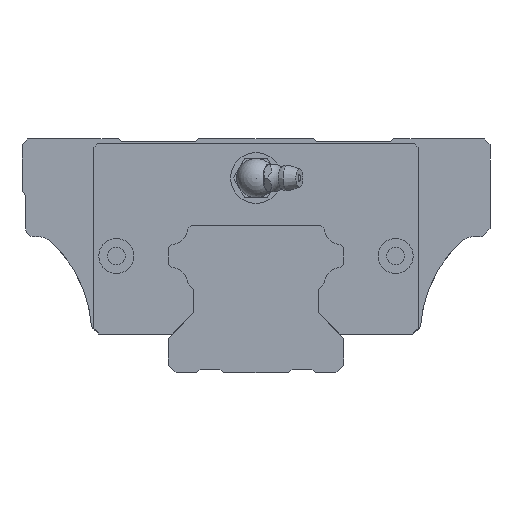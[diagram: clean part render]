
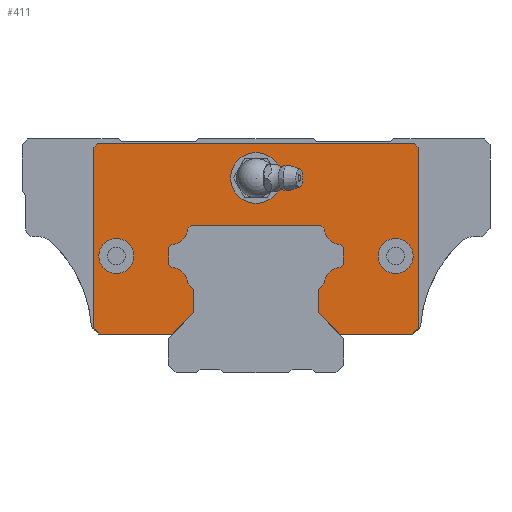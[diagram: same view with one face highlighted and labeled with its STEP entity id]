
A CAD part, front view. The second image highlights one B-rep face of the part: STEP entity #411.
In plain terms, the highlighted planar face has unit normal (0, -1, 0).
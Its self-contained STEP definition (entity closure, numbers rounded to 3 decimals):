
#128=FACE_BOUND('',#829,.T.);
#129=FACE_BOUND('',#830,.T.);
#130=FACE_BOUND('',#831,.T.);
#248=PLANE('',#3667);
#411=ADVANCED_FACE('',(#128,#129,#130,#647),#248,.F.);
#647=FACE_OUTER_BOUND('',#832,.T.);
#829=EDGE_LOOP('',(#2098));
#830=EDGE_LOOP('',(#2099));
#831=EDGE_LOOP('',(#2100));
#832=EDGE_LOOP('',(#2101,#2102,#2103,#2104,#2105,#2106,#2107,#2108,#2109,
#2110,#2111,#2112,#2113,#2114,#2115,#2116,#2117,#2118,#2119,#2120,#2121,
#2122,#2123,#2124,#2125,#2126,#2127,#2128));
#1044=LINE('',#5040,#1370);
#1049=LINE('',#5050,#1375);
#1052=LINE('',#5056,#1378);
#1055=LINE('',#5062,#1381);
#1059=LINE('',#5074,#1385);
#1062=LINE('',#5080,#1388);
#1065=LINE('',#5086,#1391);
#1069=LINE('',#5098,#1395);
#1072=LINE('',#5104,#1398);
#1075=LINE('',#5110,#1401);
#1079=LINE('',#5122,#1405);
#1082=LINE('',#5128,#1408);
#1085=LINE('',#5134,#1411);
#1089=LINE('',#5146,#1415);
#1092=LINE('',#5152,#1418);
#1095=LINE('',#5158,#1421);
#1098=LINE('',#5164,#1424);
#1157=LINE('',#5310,#1483);
#1159=LINE('',#5314,#1485);
#1161=LINE('',#5318,#1487);
#1163=LINE('',#5322,#1489);
#1165=LINE('',#5326,#1491);
#1166=LINE('',#5328,#1492);
#1168=LINE('',#5332,#1494);
#1370=VECTOR('',#4010,1.);
#1375=VECTOR('',#4017,1.);
#1378=VECTOR('',#4022,1.);
#1381=VECTOR('',#4027,1.);
#1385=VECTOR('',#4039,1.);
#1388=VECTOR('',#4044,1.);
#1391=VECTOR('',#4049,1.);
#1395=VECTOR('',#4061,1.);
#1398=VECTOR('',#4066,1.);
#1401=VECTOR('',#4071,1.);
#1405=VECTOR('',#4083,1.);
#1408=VECTOR('',#4088,1.);
#1411=VECTOR('',#4093,1.);
#1415=VECTOR('',#4105,1.);
#1418=VECTOR('',#4110,1.);
#1421=VECTOR('',#4115,1.);
#1424=VECTOR('',#4120,1.);
#1483=VECTOR('',#4263,1.);
#1485=VECTOR('',#4267,1.);
#1487=VECTOR('',#4271,1.);
#1489=VECTOR('',#4275,1.);
#1491=VECTOR('',#4279,1.);
#1492=VECTOR('',#4282,1.);
#1494=VECTOR('',#4286,1.);
#2098=ORIENTED_EDGE('',*,*,#3190,.F.);
#2099=ORIENTED_EDGE('',*,*,#3191,.F.);
#2100=ORIENTED_EDGE('',*,*,#3192,.F.);
#2101=ORIENTED_EDGE('',*,*,#3178,.F.);
#2102=ORIENTED_EDGE('',*,*,#3189,.T.);
#2103=ORIENTED_EDGE('',*,*,#3187,.T.);
#2104=ORIENTED_EDGE('',*,*,#3107,.T.);
#2105=ORIENTED_EDGE('',*,*,#3104,.F.);
#2106=ORIENTED_EDGE('',*,*,#3101,.F.);
#2107=ORIENTED_EDGE('',*,*,#3098,.T.);
#2108=ORIENTED_EDGE('',*,*,#3095,.T.);
#2109=ORIENTED_EDGE('',*,*,#3092,.T.);
#2110=ORIENTED_EDGE('',*,*,#3089,.F.);
#2111=ORIENTED_EDGE('',*,*,#3086,.F.);
#2112=ORIENTED_EDGE('',*,*,#3083,.T.);
#2113=ORIENTED_EDGE('',*,*,#3080,.F.);
#2114=ORIENTED_EDGE('',*,*,#3077,.T.);
#2115=ORIENTED_EDGE('',*,*,#3074,.T.);
#2116=ORIENTED_EDGE('',*,*,#3071,.T.);
#2117=ORIENTED_EDGE('',*,*,#3068,.T.);
#2118=ORIENTED_EDGE('',*,*,#3065,.T.);
#2119=ORIENTED_EDGE('',*,*,#3062,.F.);
#2120=ORIENTED_EDGE('',*,*,#3059,.T.);
#2121=ORIENTED_EDGE('',*,*,#3056,.F.);
#2122=ORIENTED_EDGE('',*,*,#3053,.T.);
#2123=ORIENTED_EDGE('',*,*,#3050,.T.);
#2124=ORIENTED_EDGE('',*,*,#3045,.F.);
#2125=ORIENTED_EDGE('',*,*,#3186,.T.);
#2126=ORIENTED_EDGE('',*,*,#3184,.F.);
#2127=ORIENTED_EDGE('',*,*,#3182,.F.);
#2128=ORIENTED_EDGE('',*,*,#3180,.F.);
#2691=VERTEX_POINT('',#5039);
#2692=VERTEX_POINT('',#5041);
#2696=VERTEX_POINT('',#5051);
#2698=VERTEX_POINT('',#5057);
#2700=VERTEX_POINT('',#5063);
#2702=VERTEX_POINT('',#5069);
#2704=VERTEX_POINT('',#5075);
#2706=VERTEX_POINT('',#5081);
#2708=VERTEX_POINT('',#5087);
#2710=VERTEX_POINT('',#5093);
#2712=VERTEX_POINT('',#5099);
#2714=VERTEX_POINT('',#5105);
#2716=VERTEX_POINT('',#5111);
#2718=VERTEX_POINT('',#5117);
#2720=VERTEX_POINT('',#5123);
#2722=VERTEX_POINT('',#5129);
#2724=VERTEX_POINT('',#5135);
#2726=VERTEX_POINT('',#5141);
#2728=VERTEX_POINT('',#5147);
#2730=VERTEX_POINT('',#5153);
#2732=VERTEX_POINT('',#5159);
#2734=VERTEX_POINT('',#5165);
#2778=VERTEX_POINT('',#5309);
#2779=VERTEX_POINT('',#5311);
#2780=VERTEX_POINT('',#5315);
#2781=VERTEX_POINT('',#5319);
#2782=VERTEX_POINT('',#5323);
#2783=VERTEX_POINT('',#5329);
#2784=VERTEX_POINT('',#5335);
#2785=VERTEX_POINT('',#5337);
#2786=VERTEX_POINT('',#5339);
#3045=EDGE_CURVE('',#2691,#2692,#1044,.T.);
#3050=EDGE_CURVE('',#2696,#2692,#1049,.T.);
#3053=EDGE_CURVE('',#2698,#2696,#1052,.T.);
#3056=EDGE_CURVE('',#2698,#2700,#1055,.T.);
#3059=EDGE_CURVE('',#2702,#2700,#3448,.T.);
#3062=EDGE_CURVE('',#2702,#2704,#1059,.T.);
#3065=EDGE_CURVE('',#2706,#2704,#1062,.T.);
#3068=EDGE_CURVE('',#2708,#2706,#1065,.T.);
#3071=EDGE_CURVE('',#2710,#2708,#3450,.T.);
#3074=EDGE_CURVE('',#2712,#2710,#1069,.T.);
#3077=EDGE_CURVE('',#2714,#2712,#1072,.T.);
#3080=EDGE_CURVE('',#2714,#2716,#1075,.T.);
#3083=EDGE_CURVE('',#2718,#2716,#3452,.T.);
#3086=EDGE_CURVE('',#2718,#2720,#1079,.T.);
#3089=EDGE_CURVE('',#2720,#2722,#1082,.T.);
#3092=EDGE_CURVE('',#2724,#2722,#1085,.T.);
#3095=EDGE_CURVE('',#2726,#2724,#3454,.T.);
#3098=EDGE_CURVE('',#2728,#2726,#1089,.T.);
#3101=EDGE_CURVE('',#2728,#2730,#1092,.T.);
#3104=EDGE_CURVE('',#2730,#2732,#1095,.T.);
#3107=EDGE_CURVE('',#2734,#2732,#1098,.T.);
#3178=EDGE_CURVE('',#2778,#2779,#1157,.T.);
#3180=EDGE_CURVE('',#2779,#2780,#1159,.T.);
#3182=EDGE_CURVE('',#2780,#2781,#1161,.T.);
#3184=EDGE_CURVE('',#2781,#2782,#1163,.T.);
#3186=EDGE_CURVE('',#2691,#2782,#1165,.T.);
#3187=EDGE_CURVE('',#2783,#2734,#1166,.T.);
#3189=EDGE_CURVE('',#2778,#2783,#1168,.T.);
#3190=EDGE_CURVE('',#2784,#2784,#3468,.T.);
#3191=EDGE_CURVE('',#2785,#2785,#3469,.T.);
#3192=EDGE_CURVE('',#2786,#2786,#3470,.T.);
#3448=CIRCLE('',#3591,4.35);
#3450=CIRCLE('',#3597,4.35);
#3452=CIRCLE('',#3603,4.35);
#3454=CIRCLE('',#3609,4.35);
#3468=CIRCLE('',#3664,6.5);
#3469=CIRCLE('',#3665,4.5);
#3470=CIRCLE('',#3666,4.5);
#3591=AXIS2_PLACEMENT_3D('',#5068,#4032,#4033);
#3597=AXIS2_PLACEMENT_3D('',#5092,#4054,#4055);
#3603=AXIS2_PLACEMENT_3D('',#5116,#4076,#4077);
#3609=AXIS2_PLACEMENT_3D('',#5140,#4098,#4099);
#3664=AXIS2_PLACEMENT_3D('',#5334,#4289,#4290);
#3665=AXIS2_PLACEMENT_3D('',#5336,#4291,#4292);
#3666=AXIS2_PLACEMENT_3D('',#5338,#4293,#4294);
#3667=AXIS2_PLACEMENT_3D('',#5340,#4295,#4296);
#4010=DIRECTION('',(-1.,0.,0.));
#4017=DIRECTION('',(0.707,0.,-0.707));
#4022=DIRECTION('',(0.,0.,-1.));
#4027=DIRECTION('',(0.707,0.,0.707));
#4032=DIRECTION('',(0.,-1.,0.));
#4033=DIRECTION('',(1.,0.,0.));
#4039=DIRECTION('',(0.707,0.,0.707));
#4044=DIRECTION('',(0.,0.,-1.));
#4049=DIRECTION('',(0.707,0.,-0.707));
#4054=DIRECTION('',(0.,-1.,0.));
#4055=DIRECTION('',(1.,0.,0.));
#4061=DIRECTION('',(0.707,0.,-0.707));
#4066=DIRECTION('',(1.,0.,0.));
#4071=DIRECTION('',(-0.707,0.,-0.707));
#4076=DIRECTION('',(0.,-1.,0.));
#4077=DIRECTION('',(1.,0.,0.));
#4083=DIRECTION('',(-0.707,0.,-0.707));
#4088=DIRECTION('',(0.,0.,-1.));
#4093=DIRECTION('',(-0.707,0.,0.707));
#4098=DIRECTION('',(0.,-1.,0.));
#4099=DIRECTION('',(1.,0.,0.));
#4105=DIRECTION('',(-0.707,0.,0.707));
#4110=DIRECTION('',(0.,0.,-1.));
#4115=DIRECTION('',(-0.707,0.,-0.707));
#4120=DIRECTION('',(1.,0.,0.));
#4263=DIRECTION('',(0.707,0.,0.707));
#4267=DIRECTION('',(1.,0.,0.));
#4271=DIRECTION('',(0.707,0.,-0.707));
#4275=DIRECTION('',(0.,0.,-1.));
#4279=DIRECTION('',(0.707,0.,0.707));
#4282=DIRECTION('',(0.707,0.,-0.707));
#4286=DIRECTION('',(0.,0.,-1.));
#4289=DIRECTION('',(0.,-1.,0.));
#4290=DIRECTION('',(0.,0.,-1.));
#4291=DIRECTION('',(0.,-1.,0.));
#4292=DIRECTION('',(0.,0.,-1.));
#4293=DIRECTION('',(0.,-1.,0.));
#4294=DIRECTION('',(0.,0.,-1.));
#4295=DIRECTION('',(0.,1.,0.));
#4296=DIRECTION('',(0.,0.,-1.));
#5039=CARTESIAN_POINT('',(40.146,-83.75,10.));
#5040=CARTESIAN_POINT('',(40.146,-83.75,10.));
#5041=CARTESIAN_POINT('',(21.359,-83.75,10.));
#5050=CARTESIAN_POINT('',(15.9,-83.75,15.459));
#5051=CARTESIAN_POINT('',(15.9,-83.75,15.459));
#5056=CARTESIAN_POINT('',(15.9,-83.75,21.441));
#5057=CARTESIAN_POINT('',(15.9,-83.75,21.441));
#5062=CARTESIAN_POINT('',(15.9,-83.75,21.441));
#5063=CARTESIAN_POINT('',(17.575,-83.75,23.116));
#5068=CARTESIAN_POINT('',(21.912,-83.75,22.788));
#5069=CARTESIAN_POINT('',(21.584,-83.75,27.125));
#5074=CARTESIAN_POINT('',(21.584,-83.75,27.125));
#5075=CARTESIAN_POINT('',(22.4,-83.75,27.941));
#5080=CARTESIAN_POINT('',(22.4,-83.75,32.059));
#5081=CARTESIAN_POINT('',(22.4,-83.75,32.059));
#5086=CARTESIAN_POINT('',(21.584,-83.75,32.875));
#5087=CARTESIAN_POINT('',(21.584,-83.75,32.875));
#5092=CARTESIAN_POINT('',(21.912,-83.75,37.212));
#5093=CARTESIAN_POINT('',(17.575,-83.75,36.884));
#5098=CARTESIAN_POINT('',(16.559,-83.75,37.9));
#5099=CARTESIAN_POINT('',(16.559,-83.75,37.9));
#5104=CARTESIAN_POINT('',(-16.559,-83.75,37.9));
#5105=CARTESIAN_POINT('',(-16.559,-83.75,37.9));
#5110=CARTESIAN_POINT('',(-16.559,-83.75,37.9));
#5111=CARTESIAN_POINT('',(-17.575,-83.75,36.884));
#5116=CARTESIAN_POINT('',(-21.912,-83.75,37.212));
#5117=CARTESIAN_POINT('',(-21.584,-83.75,32.875));
#5122=CARTESIAN_POINT('',(-21.584,-83.75,32.875));
#5123=CARTESIAN_POINT('',(-22.4,-83.75,32.059));
#5128=CARTESIAN_POINT('',(-22.4,-83.75,32.059));
#5129=CARTESIAN_POINT('',(-22.4,-83.75,27.941));
#5134=CARTESIAN_POINT('',(-21.584,-83.75,27.125));
#5135=CARTESIAN_POINT('',(-21.584,-83.75,27.125));
#5140=CARTESIAN_POINT('',(-21.912,-83.75,22.788));
#5141=CARTESIAN_POINT('',(-17.575,-83.75,23.116));
#5146=CARTESIAN_POINT('',(-15.9,-83.75,21.441));
#5147=CARTESIAN_POINT('',(-15.9,-83.75,21.441));
#5152=CARTESIAN_POINT('',(-15.9,-83.75,21.441));
#5153=CARTESIAN_POINT('',(-15.9,-83.75,15.459));
#5158=CARTESIAN_POINT('',(-15.9,-83.75,15.459));
#5159=CARTESIAN_POINT('',(-21.359,-83.75,10.));
#5164=CARTESIAN_POINT('',(-40.146,-83.75,10.));
#5165=CARTESIAN_POINT('',(-40.146,-83.75,10.));
#5309=CARTESIAN_POINT('',(-41.55,-83.75,57.896));
#5310=CARTESIAN_POINT('',(-41.55,-83.75,57.896));
#5311=CARTESIAN_POINT('',(-40.696,-83.75,58.75));
#5314=CARTESIAN_POINT('',(-40.696,-83.75,58.75));
#5315=CARTESIAN_POINT('',(40.696,-83.75,58.75));
#5318=CARTESIAN_POINT('',(40.696,-83.75,58.75));
#5319=CARTESIAN_POINT('',(41.55,-83.75,57.896));
#5322=CARTESIAN_POINT('',(41.55,-83.75,57.896));
#5323=CARTESIAN_POINT('',(41.55,-83.75,11.404));
#5326=CARTESIAN_POINT('',(40.146,-83.75,10.));
#5328=CARTESIAN_POINT('',(-41.55,-83.75,11.404));
#5329=CARTESIAN_POINT('',(-41.55,-83.75,11.404));
#5332=CARTESIAN_POINT('',(-41.55,-83.75,57.896));
#5334=CARTESIAN_POINT('',(0.,-83.75,50.));
#5335=CARTESIAN_POINT('',(0.,-83.75,43.5));
#5336=CARTESIAN_POINT('',(35.8,-83.75,30.));
#5337=CARTESIAN_POINT('',(35.8,-83.75,25.5));
#5338=CARTESIAN_POINT('',(-35.8,-83.75,30.));
#5339=CARTESIAN_POINT('',(-35.8,-83.75,25.5));
#5340=CARTESIAN_POINT('',(21.912,-83.75,22.788));
